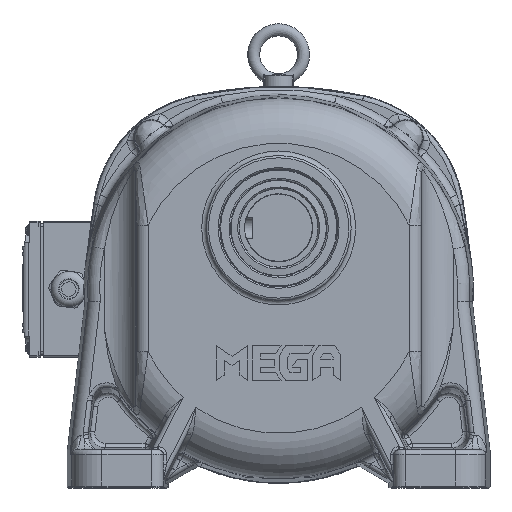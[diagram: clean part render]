
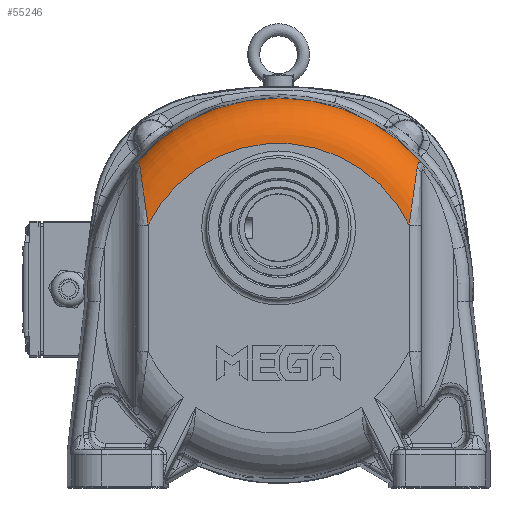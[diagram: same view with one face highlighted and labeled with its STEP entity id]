
A CAD part, top view. The second image highlights one B-rep face of the part: STEP entity #55246.
In plain terms, the highlighted toroidal (fillet/blend) face has major radius 96.083 mm and minor radius 30 mm.
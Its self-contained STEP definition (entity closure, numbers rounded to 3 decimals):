
#1562=TOROIDAL_SURFACE('',#59847,96.083,30.);
#9841=FACE_OUTER_BOUND('',#13249,.T.);
#13249=EDGE_LOOP('',(#40164,#40165,#40166,#40167,#40168,#40169));
#16851=CIRCLE('',#59848,126.073);
#16852=CIRCLE('',#59849,96.083);
#19295=B_SPLINE_CURVE_WITH_KNOTS('',3,(#94617,#94618,#94619,#94620,#94621,
#94622,#94623,#94624),.UNSPECIFIED.,.F.,.F.,(4,1,1,1,1,4),(-3.594,
-2.567,-2.054,-1.027,-0.513,
0.),.UNSPECIFIED.);
#19296=B_SPLINE_CURVE_WITH_KNOTS('',3,(#94658,#94659,#94660,#94661,#94662,
#94663),.UNSPECIFIED.,.F.,.F.,(4,1,1,4),(-1.212,-0.692,
-0.346,0.),.UNSPECIFIED.);
#19298=B_SPLINE_CURVE_WITH_KNOTS('',3,(#94747,#94748,#94749,#94750,#94751,
#94752),.UNSPECIFIED.,.F.,.F.,(4,1,1,4),(-3.592,-3.079,
-2.053,0.),.UNSPECIFIED.);
#19299=B_SPLINE_CURVE_WITH_KNOTS('',3,(#94754,#94755,#94756,#94757,#94758,
#94759,#94760),.UNSPECIFIED.,.F.,.F.,(4,1,1,1,4),(-1.211,-0.865,
-0.692,-0.346,0.),.UNSPECIFIED.);
#22858=VERTEX_POINT('',#94565);
#22859=VERTEX_POINT('',#94616);
#22860=VERTEX_POINT('',#94656);
#22864=VERTEX_POINT('',#94745);
#22865=VERTEX_POINT('',#94746);
#22866=VERTEX_POINT('',#94753);
#29046=EDGE_CURVE('',#22858,#22859,#19295,.T.);
#29049=EDGE_CURVE('',#22859,#22860,#19296,.T.);
#29055=EDGE_CURVE('',#22864,#22865,#19298,.T.);
#29056=EDGE_CURVE('',#22866,#22864,#19299,.T.);
#29057=EDGE_CURVE('',#22860,#22866,#16851,.F.);
#29058=EDGE_CURVE('',#22858,#22865,#16852,.T.);
#40164=ORIENTED_EDGE('',*,*,#29055,.F.);
#40165=ORIENTED_EDGE('',*,*,#29056,.F.);
#40166=ORIENTED_EDGE('',*,*,#29057,.F.);
#40167=ORIENTED_EDGE('',*,*,#29049,.F.);
#40168=ORIENTED_EDGE('',*,*,#29046,.F.);
#40169=ORIENTED_EDGE('',*,*,#29058,.T.);
#55246=ADVANCED_FACE('',(#9841),#1562,.T.);
#59847=AXIS2_PLACEMENT_3D('',#94744,#69585,#69586);
#59848=AXIS2_PLACEMENT_3D('',#94761,#69587,#69588);
#59849=AXIS2_PLACEMENT_3D('',#94762,#69589,#69590);
#69585=DIRECTION('center_axis',(0.,0.,-1.));
#69586=DIRECTION('ref_axis',(-1.,0.,0.));
#69587=DIRECTION('center_axis',(0.,0.,1.));
#69588=DIRECTION('ref_axis',(-1.,0.,0.));
#69589=DIRECTION('center_axis',(0.,0.,-1.));
#69590=DIRECTION('ref_axis',(-1.,0.,0.));
#94565=CARTESIAN_POINT('',(-90.627,41.043,99.504));
#94616=CARTESIAN_POINT('',(-95.957,78.982,85.178));
#94617=CARTESIAN_POINT('Ctrl Pts',(-90.627,41.043,99.504));
#94618=CARTESIAN_POINT('Ctrl Pts',(-91.116,44.703,99.504));
#94619=CARTESIAN_POINT('Ctrl Pts',(-91.896,50.334,99.195));
#94620=CARTESIAN_POINT('Ctrl Pts',(-93.232,59.807,97.387));
#94621=CARTESIAN_POINT('Ctrl Pts',(-94.313,67.446,94.63));
#94622=CARTESIAN_POINT('Ctrl Pts',(-95.307,74.472,89.985));
#94623=CARTESIAN_POINT('Ctrl Pts',(-95.756,77.604,86.901));
#94624=CARTESIAN_POINT('Ctrl Pts',(-95.957,78.982,85.178));
#94656=CARTESIAN_POINT('',(-99.178,81.998,70.29));
#94658=CARTESIAN_POINT('Ctrl Pts',(-95.957,78.982,85.178));
#94659=CARTESIAN_POINT('Ctrl Pts',(-96.16,80.375,83.435));
#94660=CARTESIAN_POINT('Ctrl Pts',(-96.628,82.341,80.034));
#94661=CARTESIAN_POINT('Ctrl Pts',(-97.838,83.076,74.553));
#94662=CARTESIAN_POINT('Ctrl Pts',(-98.724,82.465,71.625));
#94663=CARTESIAN_POINT('Ctrl Pts',(-99.178,81.998,70.29));
#94744=CARTESIAN_POINT('Origin',(-4.169,-0.874,69.504));
#94745=CARTESIAN_POINT('',(87.618,78.982,85.178));
#94746=CARTESIAN_POINT('',(82.288,41.043,99.504));
#94747=CARTESIAN_POINT('Ctrl Pts',(87.618,78.982,85.178));
#94748=CARTESIAN_POINT('Ctrl Pts',(87.417,77.605,86.9));
#94749=CARTESIAN_POINT('Ctrl Pts',(86.744,72.907,91.517));
#94750=CARTESIAN_POINT('Ctrl Pts',(84.931,60.033,98.314));
#94751=CARTESIAN_POINT('Ctrl Pts',(83.265,48.358,99.504));
#94752=CARTESIAN_POINT('Ctrl Pts',(82.288,41.043,99.504));
#94753=CARTESIAN_POINT('',(90.839,81.998,70.29));
#94754=CARTESIAN_POINT('Ctrl Pts',(90.839,81.998,70.29));
#94755=CARTESIAN_POINT('Ctrl Pts',(90.385,82.465,71.625));
#94756=CARTESIAN_POINT('Ctrl Pts',(89.728,82.911,73.804));
#94757=CARTESIAN_POINT('Ctrl Pts',(88.799,82.733,77.647));
#94758=CARTESIAN_POINT('Ctrl Pts',(88.093,81.59,81.429));
#94759=CARTESIAN_POINT('Ctrl Pts',(87.754,79.91,84.016));
#94760=CARTESIAN_POINT('Ctrl Pts',(87.618,78.982,85.178));
#94761=CARTESIAN_POINT('Origin',(-4.169,-0.874,70.29));
#94762=CARTESIAN_POINT('Origin',(-4.169,-0.874,99.504));
